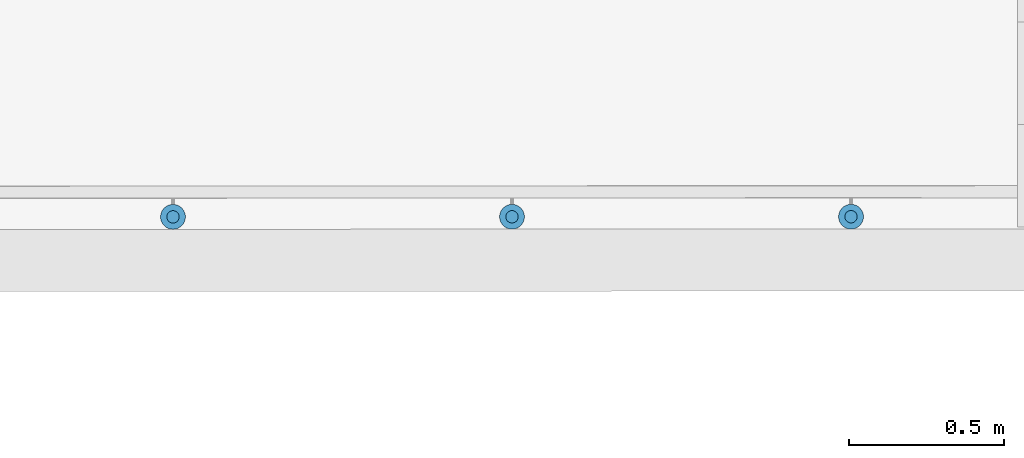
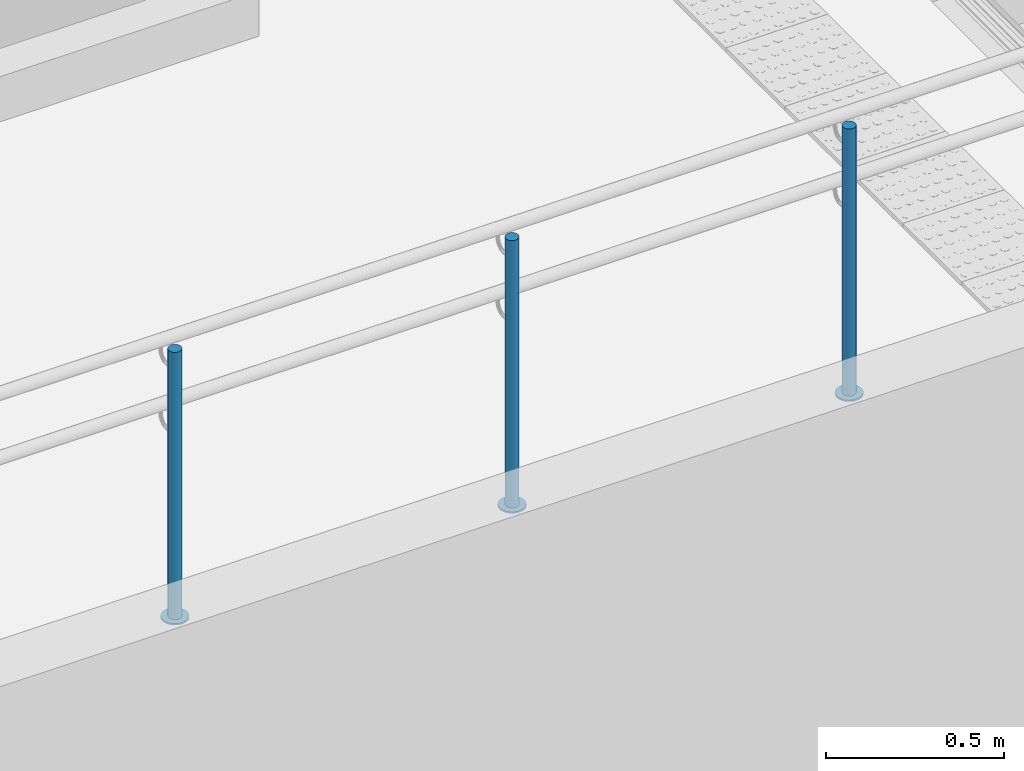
# One storey, part 130 of 237: 6 building element parts, 1 element without a shape of its own.
"""IFC2X3 building model written with IfcOpenShell, lengths in millimetres."""

from ifc_helpers import new_model, entity, si_unit, converted_unit, derived_unit, money_unit, direction, frame, origin_with_axes, place, context, subcontext, project, spatial, faceted_brep, material, type_object, element, aggregate, save


model = new_model("IFC2X3")

# Units and contexts
model_context = context("Model", 3, precision=0.01, world=origin_with_axes(), true_north=direction((0.0, 1.0)))
body_context = subcontext(model_context, "Body", "Model", "MODEL_VIEW")
ifc_project = project(units=[si_unit("LENGTHUNIT", "METRE", prefix="MILLI"), si_unit("AREAUNIT", "SQUARE_METRE"), si_unit("VOLUMEUNIT", "CUBIC_METRE"), converted_unit("PLANEANGLEUNIT", "DEGREE", entity("IfcPlaneAngleMeasure", 0.0174532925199), si_unit("PLANEANGLEUNIT", "RADIAN"), dimensions=[0, 0, 0, 0, 0, 0, 0]), money_unit("USD"), converted_unit("TIMEUNIT", "Year", entity("IfcTimeMeasure", 31556926.0), si_unit("TIMEUNIT", "SECOND"), dimensions=[0, 0, 1, 0, 0, 0, 0]), si_unit("MASSUNIT", "GRAM", prefix="KILO"), si_unit("THERMODYNAMICTEMPERATUREUNIT", "DEGREE_CELSIUS"), si_unit("LUMINOUSINTENSITYUNIT", "LUMEN"), si_unit("ENERGYUNIT", "JOULE", prefix="MEGA"), derived_unit("THERMALCONDUCTANCEUNIT", [(si_unit("POWERUNIT", "WATT"), 1), (si_unit("LENGTHUNIT", "METRE"), -1), (si_unit("THERMODYNAMICTEMPERATUREUNIT", "KELVIN"), -1)]), derived_unit("SPECIFICHEATCAPACITYUNIT", [(si_unit("ENERGYUNIT", "JOULE"), 1), (si_unit("MASSUNIT", "GRAM", prefix="KILO"), -1), (si_unit("THERMODYNAMICTEMPERATUREUNIT", "KELVIN"), -1)]), derived_unit("MASSDENSITYUNIT", [(si_unit("MASSUNIT", "GRAM", prefix="KILO"), 1), (si_unit("VOLUMEUNIT", "CUBIC_METRE"), -1)])], contexts=[model_context])

# Site, building, storey
site_placement = place(None, origin_with_axes())
site = spatial("IfcSite", under=ifc_project, at=site_placement, Name="Local", CompositionType="ELEMENT")
building_placement = place(site_placement, origin_with_axes())
building = spatial("IfcBuilding", under=site, at=building_placement, Name="Construção", CompositionType="ELEMENT")
storey_placement = place(building_placement, origin_with_axes())
storey = spatial("IfcBuildingStorey", under=building, at=storey_placement, Name="Pavimento Térreo", CompositionType="ELEMENT", Elevation=0.0)

# Railing, building element parts
railing_type = type_object("IfcRailingType", Name="Tipo de Guarda-Corpo", PredefinedType="NOTDEFINED")
railing_placement = place(storey_placement, frame((88000.0, 12000.0, -7124.22292764), z_axis=(0.0, 0.0, 1.0), x_axis=(1.0, 0.0, 0.0)))
railing = element("IfcRailing", 1, at=railing_placement, inside=storey, type_object=railing_type, Name="Guarda-Corpo - 003", PredefinedType="NOTDEFINED")
ifc_material_1 = material(Name="Aço - Inoxidável")
building_element_part_1_placement = place(railing_placement, origin_with_axes())
building_element_part_1 = element("IfcBuildingElementPart", 2, at=building_element_part_1_placement, material=ifc_material_1, Name="Aço - Inoxidável", context=body_context, shape_type="Brep", body=[
    faceted_brep([(8916.64733668, 1015.00471989, 2134.61538462), (8920.12037395, 1014.70171868, 2134.61538462), (8920.12037395, 1014.70171868, 3049.61538462), (8916.64733668, 1015.00471989, 3049.61538462), (8923.59326358, 1015.00640732, 2134.61538462), (8913.27967826, 1015.90620443, 2134.61538462), (8910.11972329, 1017.37878113, 2134.61538462), (8907.2634854, 1019.37770652, 2134.61538462), (8904.79774992, 1021.84224423, 2134.61538462), (8902.797437, 1024.69751056, 2134.61538462), (8901.32332511, 1027.85674967, 2134.61538462), (8900.42020441, 1031.22396968, 2134.61538462), (8900.11551576, 1034.69685931, 2134.61538462), (8900.41851698, 1038.16989658, 2134.61538462), (8901.32000151, 1041.537555, 2134.61538462), (8902.79257822, 1044.69750997, 2134.61538462), (8904.7915036, 1047.55374786, 2134.61538462), (8907.25604132, 1050.01948334, 2134.61538462), (8910.11130765, 1052.01979626, 2134.61538462), (8913.27054676, 1053.49390815, 2134.61538462), (8916.63776677, 1054.39702885, 2134.61538462), (8920.1106564, 1054.7017175, 2134.61538462), (8923.58369367, 1054.39871628, 2134.61538462), (8926.95135209, 1053.49723175, 2134.61538462), (8930.11130706, 1052.02465504, 2134.61538462), (8932.96754495, 1050.02572966, 2134.61538462), (8935.43328043, 1047.56119194, 2134.61538462), (8937.43359335, 1044.70592561, 2134.61538462), (8938.90770524, 1041.5466865, 2134.61538462), (8939.81082594, 1038.17946649, 2134.61538462), (8940.11551458, 1034.70657686, 2134.61538462), (8939.81251337, 1031.23353959, 2134.61538462), (8938.91102883, 1027.86588118, 2134.61538462), (8937.43845213, 1024.7059262, 2134.61538462), (8935.43952674, 1021.84968831, 2134.61538462), (8932.97498903, 1019.38395284, 2134.61538462), (8930.1197227, 1017.38363991, 2134.61538462), (8926.96048359, 1015.90952802, 2134.61538462), (8923.59326358, 1015.00640732, 3049.61538462), (8900.41851698, 1038.16989658, 3049.61538462), (8900.11551576, 1034.69685931, 3049.61538462), (8900.42020441, 1031.22396968, 3049.61538462), (8901.32332511, 1027.85674967, 3049.61538462), (8902.797437, 1024.69751056, 3049.61538462), (8904.79774992, 1021.84224423, 3049.61538462), (8907.2634854, 1019.37770652, 3049.61538462), (8910.11972329, 1017.37878113, 3049.61538462), (8913.27967826, 1015.90620443, 3049.61538462), (8926.96048359, 1015.90952802, 3049.61538462), (8930.1197227, 1017.38363991, 3049.61538462), (8932.97498903, 1019.38395284, 3049.61538462), (8935.43952674, 1021.84968831, 3049.61538462), (8937.43845213, 1024.7059262, 3049.61538462), (8938.91102883, 1027.86588118, 3049.61538462), (8939.81251337, 1031.23353959, 3049.61538462), (8940.11551458, 1034.70657686, 3049.61538462), (8939.81082594, 1038.17946649, 3049.61538462), (8938.90770524, 1041.5466865, 3049.61538462), (8937.43359335, 1044.70592561, 3049.61538462), (8935.43328043, 1047.56119194, 3049.61538462), (8932.96754495, 1050.02572966, 3049.61538462), (8930.11130706, 1052.02465504, 3049.61538462), (8926.95135209, 1053.49723175, 3049.61538462), (8923.58369367, 1054.39871628, 3049.61538462), (8920.1106564, 1054.7017175, 3049.61538462), (8916.63776677, 1054.39702885, 3049.61538462), (8913.27054676, 1053.49390815, 3049.61538462), (8910.11130765, 1052.01979626, 3049.61538462), (8907.25604132, 1050.01948334, 3049.61538462), (8904.7915036, 1047.55374786, 3049.61538462), (8902.79257822, 1044.69750997, 3049.61538462), (8901.32000151, 1041.537555, 3049.61538462)], [[[0, 1, 2, 3]], [[4, 1, 0, 5, 6, 7, 8, 9, 10, 11, 12, 13, 14, 15, 16, 17, 18, 19, 20, 21, 22, 23, 24, 25, 26, 27, 28, 29, 30, 31, 32, 33, 34, 35, 36, 37]], [[1, 4, 38, 2]], [[39, 40, 41, 42, 43, 44, 45, 46, 47, 3, 2, 38, 48, 49, 50, 51, 52, 53, 54, 55, 56, 57, 58, 59, 60, 61, 62, 63, 64, 65, 66, 67, 68, 69, 70, 71]], [[5, 0, 3, 47]], [[6, 5, 47, 46]], [[7, 6, 46, 45]], [[8, 7, 45, 44]], [[9, 8, 44, 43]], [[10, 9, 43, 42]], [[11, 10, 42, 41]], [[12, 11, 41, 40]], [[13, 12, 40, 39]], [[14, 13, 39, 71]], [[15, 14, 71, 70]], [[16, 15, 70, 69]], [[17, 16, 69, 68]], [[18, 17, 68, 67]], [[19, 18, 67, 66]], [[20, 19, 66, 65]], [[21, 20, 65, 64]], [[22, 21, 64, 63]], [[23, 22, 63, 62]], [[24, 23, 62, 61]], [[25, 24, 61, 60]], [[26, 25, 60, 59]], [[27, 26, 59, 58]], [[28, 27, 58, 57]], [[29, 28, 57, 56]], [[30, 29, 56, 55]], [[31, 30, 55, 54]], [[32, 31, 54, 53]], [[33, 32, 53, 52]], [[34, 33, 52, 51]], [[35, 34, 51, 50]], [[36, 35, 50, 49]], [[37, 36, 49, 48]], [[4, 37, 48, 38]]]),
])
ifc_material_2 = material(Name="Alumínio")
building_element_part_2_placement = place(railing_placement, origin_with_axes())
building_element_part_2 = element("IfcBuildingElementPart", 3, at=building_element_part_2_placement, material=ifc_material_2, Name="Alumínio", context=body_context, shape_type="Brep", body=[
    faceted_brep([(8960.11551399, 1034.71143563, 2129.61538462), (8959.5061367, 1041.6572149, 2129.61538462), (8959.5061367, 1041.6572149, 2134.61538462), (8960.11551399, 1034.71143563, 2134.61538462), (8959.50951157, 1027.7653611, 2129.61538462), (8957.70654249, 1021.03004426, 2129.61538462), (8954.76138908, 1014.71013432, 2129.61538462), (8950.76353831, 1008.99765853, 2129.61538462), (8945.83446288, 1004.06618758, 2129.61538462), (8940.12393023, 1000.06556173, 2129.61538462), (8933.80545201, 997.117337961, 2129.61538462), (8927.07101199, 995.311096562, 2129.61538462), (8920.12523272, 994.701719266, 2129.61538462), (8913.17915819, 995.307721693, 2129.61538462), (8906.44384135, 997.110690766, 2129.61538462), (8900.12393141, 1000.05584418, 2129.61538462), (8894.41145562, 1004.05369495, 2129.61538462), (8889.47998467, 1008.98277038, 2129.61538462), (8885.47935882, 1014.69330303, 2129.61538462), (8882.53113505, 1021.01178125, 2129.61538462), (8880.72489365, 1027.74622127, 2129.61538462), (8880.11551635, 1034.69200054, 2129.61538462), (8880.72151878, 1041.63807507, 2129.61538462), (8882.52448786, 1048.37339191, 2129.61538462), (8885.46964127, 1054.69330185, 2129.61538462), (8889.46749203, 1060.40577764, 2129.61538462), (8894.39656747, 1065.33724859, 2129.61538462), (8900.10710012, 1069.33787444, 2129.61538462), (8906.42557834, 1072.28609821, 2129.61538462), (8913.16001836, 1074.09233961, 2129.61538462), (8920.10579763, 1074.70171691, 2129.61538462), (8927.05187216, 1074.09571448, 2129.61538462), (8933.787189, 1072.29274541, 2129.61538462), (8940.10709894, 1069.34759199, 2129.61538462), (8945.81957473, 1065.34974123, 2129.61538462), (8950.75104568, 1060.42066579, 2129.61538462), (8954.75167153, 1054.71013314, 2129.61538462), (8957.6998953, 1048.39165492, 2129.61538462), (8957.6998953, 1048.39165492, 2134.61538462), (8954.75167153, 1054.71013314, 2134.61538462), (8950.75104568, 1060.42066579, 2134.61538462), (8945.81957473, 1065.34974123, 2134.61538462), (8940.10709894, 1069.34759199, 2134.61538462), (8933.787189, 1072.29274541, 2134.61538462), (8927.05187216, 1074.09571448, 2134.61538462), (8920.10579763, 1074.70171691, 2134.61538462), (8913.16001836, 1074.09233961, 2134.61538462), (8906.42557834, 1072.28609821, 2134.61538462), (8900.10710012, 1069.33787444, 2134.61538462), (8894.39656747, 1065.33724859, 2134.61538462), (8889.46749203, 1060.40577764, 2134.61538462), (8885.46964127, 1054.69330185, 2134.61538462), (8882.52448786, 1048.37339191, 2134.61538462), (8880.72151878, 1041.63807507, 2134.61538462), (8880.11551635, 1034.69200054, 2134.61538462), (8880.72489365, 1027.74622127, 2134.61538462), (8882.53113505, 1021.01178125, 2134.61538462), (8885.47935882, 1014.69330303, 2134.61538462), (8889.47998467, 1008.98277038, 2134.61538462), (8894.41145562, 1004.05369495, 2134.61538462), (8900.12393141, 1000.05584418, 2134.61538462), (8906.44384135, 997.110690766, 2134.61538462), (8913.17915819, 995.307721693, 2134.61538462), (8920.12523272, 994.701719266, 2134.61538462), (8927.07101199, 995.311096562, 2134.61538462), (8933.80545201, 997.117337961, 2134.61538462), (8940.12393023, 1000.06556173, 2134.61538462), (8945.83446288, 1004.06618758, 2134.61538462), (8950.76353831, 1008.99765853, 2134.61538462), (8954.76138908, 1014.71013432, 2134.61538462), (8957.70654249, 1021.03004426, 2134.61538462), (8959.50951157, 1027.7653611, 2134.61538462)], [[[0, 1, 2, 3]], [[0, 4, 5, 6, 7, 8, 9, 10, 11, 12, 13, 14, 15, 16, 17, 18, 19, 20, 21, 22, 23, 24, 25, 26, 27, 28, 29, 30, 31, 32, 33, 34, 35, 36, 37, 1]], [[1, 37, 38, 2]], [[3, 2, 38, 39, 40, 41, 42, 43, 44, 45, 46, 47, 48, 49, 50, 51, 52, 53, 54, 55, 56, 57, 58, 59, 60, 61, 62, 63, 64, 65, 66, 67, 68, 69, 70, 71]], [[4, 0, 3, 71]], [[5, 4, 71, 70]], [[6, 5, 70, 69]], [[7, 6, 69, 68]], [[8, 7, 68, 67]], [[9, 8, 67, 66]], [[10, 9, 66, 65]], [[11, 10, 65, 64]], [[12, 11, 64, 63]], [[13, 12, 63, 62]], [[14, 13, 62, 61]], [[15, 14, 61, 60]], [[16, 15, 60, 59]], [[17, 16, 59, 58]], [[18, 17, 58, 57]], [[19, 18, 57, 56]], [[20, 19, 56, 55]], [[21, 20, 55, 54]], [[22, 21, 54, 53]], [[23, 22, 53, 52]], [[24, 23, 52, 51]], [[25, 24, 51, 50]], [[26, 25, 50, 49]], [[27, 26, 49, 48]], [[28, 27, 48, 47]], [[29, 28, 47, 46]], [[30, 29, 46, 45]], [[31, 30, 45, 44]], [[32, 31, 44, 43]], [[33, 32, 43, 42]], [[34, 33, 42, 41]], [[35, 34, 41, 40]], [[36, 35, 40, 39]], [[37, 36, 39, 38]]]),
])
building_element_part_3_placement = place(railing_placement, origin_with_axes())
building_element_part_3 = element("IfcBuildingElementPart", 4, at=building_element_part_3_placement, material=ifc_material_1, Name="Aço - Inoxidável", context=body_context, shape_type="Brep", body=[
    faceted_brep([(10009.1386685, 1015.27012832, 2134.61538462), (10012.6117058, 1014.9671271, 2134.61538462), (10012.6117058, 1014.9671271, 3049.61538462), (10009.1386685, 1015.27012832, 3049.61538462), (10016.0845954, 1015.27181575, 2134.61538462), (10005.7710101, 1016.17161285, 2134.61538462), (10002.6110551, 1017.64418956, 2134.61538462), (9999.75481721, 1019.64311494, 2134.61538462), (9997.28908174, 1022.10765266, 2134.61538462), (9995.28876881, 1024.96291899, 2134.61538462), (9993.81465692, 1028.1221581, 2134.61538462), (9992.91153622, 1031.48937811, 2134.61538462), (9992.60684758, 1034.96226774, 2134.61538462), (9992.90984879, 1038.43530501, 2134.61538462), (9993.81133333, 1041.80296343, 2134.61538462), (9995.28391003, 1044.9629184, 2134.61538462), (9997.28283542, 1047.81915629, 2134.61538462), (9999.74737314, 1050.28489177, 2134.61538462), (10002.6026395, 1052.28520469, 2134.61538462), (10005.7618786, 1053.75931658, 2134.61538462), (10009.1290986, 1054.66243728, 2134.61538462), (10012.6019882, 1054.96712592, 2134.61538462), (10016.0750255, 1054.66412471, 2134.61538462), (10019.4426839, 1053.76264017, 2134.61538462), (10022.6026389, 1052.29006347, 2134.61538462), (10025.4588768, 1050.29113808, 2134.61538462), (10027.9246122, 1047.82660037, 2134.61538462), (10029.9249252, 1044.97133404, 2134.61538462), (10031.399037, 1041.81209493, 2134.61538462), (10032.3021577, 1038.44487492, 2134.61538462), (10032.6068464, 1034.97198529, 2134.61538462), (10032.3038452, 1031.49894802, 2134.61538462), (10031.4023606, 1028.1312896, 2134.61538462), (10029.9297839, 1024.97133463, 2134.61538462), (10027.9308586, 1022.11509674, 2134.61538462), (10025.4663208, 1019.64936126, 2134.61538462), (10022.6110545, 1017.64904834, 2134.61538462), (10019.4518154, 1016.17493645, 2134.61538462), (10016.0845954, 1015.27181575, 3049.61538462), (9992.90984879, 1038.43530501, 3049.61538462), (9992.60684758, 1034.96226774, 3049.61538462), (9992.91153622, 1031.48937811, 3049.61538462), (9993.81465692, 1028.1221581, 3049.61538462), (9995.28876881, 1024.96291899, 3049.61538462), (9997.28908174, 1022.10765266, 3049.61538462), (9999.75481721, 1019.64311494, 3049.61538462), (10002.6110551, 1017.64418956, 3049.61538462), (10005.7710101, 1016.17161285, 3049.61538462), (10019.4518154, 1016.17493645, 3049.61538462), (10022.6110545, 1017.64904834, 3049.61538462), (10025.4663208, 1019.64936126, 3049.61538462), (10027.9308586, 1022.11509674, 3049.61538462), (10029.9297839, 1024.97133463, 3049.61538462), (10031.4023606, 1028.1312896, 3049.61538462), (10032.3038452, 1031.49894802, 3049.61538462), (10032.6068464, 1034.97198529, 3049.61538462), (10032.3021577, 1038.44487492, 3049.61538462), (10031.399037, 1041.81209493, 3049.61538462), (10029.9249252, 1044.97133404, 3049.61538462), (10027.9246122, 1047.82660037, 3049.61538462), (10025.4588768, 1050.29113808, 3049.61538462), (10022.6026389, 1052.29006347, 3049.61538462), (10019.4426839, 1053.76264017, 3049.61538462), (10016.0750255, 1054.66412471, 3049.61538462), (10012.6019882, 1054.96712592, 3049.61538462), (10009.1290986, 1054.66243728, 3049.61538462), (10005.7618786, 1053.75931658, 3049.61538462), (10002.6026395, 1052.28520469, 3049.61538462), (9999.74737314, 1050.28489177, 3049.61538462), (9997.28283542, 1047.81915629, 3049.61538462), (9995.28391003, 1044.9629184, 3049.61538462), (9993.81133333, 1041.80296343, 3049.61538462)], [[[0, 1, 2, 3]], [[4, 1, 0, 5, 6, 7, 8, 9, 10, 11, 12, 13, 14, 15, 16, 17, 18, 19, 20, 21, 22, 23, 24, 25, 26, 27, 28, 29, 30, 31, 32, 33, 34, 35, 36, 37]], [[1, 4, 38, 2]], [[39, 40, 41, 42, 43, 44, 45, 46, 47, 3, 2, 38, 48, 49, 50, 51, 52, 53, 54, 55, 56, 57, 58, 59, 60, 61, 62, 63, 64, 65, 66, 67, 68, 69, 70, 71]], [[5, 0, 3, 47]], [[6, 5, 47, 46]], [[7, 6, 46, 45]], [[8, 7, 45, 44]], [[9, 8, 44, 43]], [[10, 9, 43, 42]], [[11, 10, 42, 41]], [[12, 11, 41, 40]], [[13, 12, 40, 39]], [[14, 13, 39, 71]], [[15, 14, 71, 70]], [[16, 15, 70, 69]], [[17, 16, 69, 68]], [[18, 17, 68, 67]], [[19, 18, 67, 66]], [[20, 19, 66, 65]], [[21, 20, 65, 64]], [[22, 21, 64, 63]], [[23, 22, 63, 62]], [[24, 23, 62, 61]], [[25, 24, 61, 60]], [[26, 25, 60, 59]], [[27, 26, 59, 58]], [[28, 27, 58, 57]], [[29, 28, 57, 56]], [[30, 29, 56, 55]], [[31, 30, 55, 54]], [[32, 31, 54, 53]], [[33, 32, 53, 52]], [[34, 33, 52, 51]], [[35, 34, 51, 50]], [[36, 35, 50, 49]], [[37, 36, 49, 48]], [[4, 37, 48, 38]]]),
])
building_element_part_4_placement = place(railing_placement, origin_with_axes())
building_element_part_4 = element("IfcBuildingElementPart", 5, at=building_element_part_4_placement, material=ifc_material_2, Name="Alumínio", context=body_context, shape_type="Brep", body=[
    faceted_brep([(10052.6068458, 1034.97684406, 2129.61538462), (10051.9974685, 1041.92262333, 2129.61538462), (10051.9974685, 1041.92262333, 2134.61538462), (10052.6068458, 1034.97684406, 2134.61538462), (10052.0008434, 1028.03076953, 2129.61538462), (10050.1978743, 1021.29545269, 2129.61538462), (10047.2527209, 1014.97554275, 2129.61538462), (10043.2548701, 1009.26306696, 2129.61538462), (10038.3257947, 1004.33159601, 2129.61538462), (10032.615262, 1000.33097016, 2129.61538462), (10026.2967838, 997.382746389, 2129.61538462), (10019.5623438, 995.576504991, 2129.61538462), (10012.6165645, 994.967127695, 2129.61538462), (10005.67049, 995.573130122, 2129.61538462), (9998.93517317, 997.376099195, 2129.61538462), (9992.61526322, 1000.32125261, 2129.61538462), (9986.90278743, 1004.31910337, 2129.61538462), (9981.97131649, 1009.24817881, 2129.61538462), (9977.97069063, 1014.95871146, 2129.61538462), (9975.02246686, 1021.27718968, 2129.61538462), (9973.21622546, 1028.0116297, 2129.61538462), (9972.60684817, 1034.95740897, 2129.61538462), (9973.21285059, 1041.9034835, 2129.61538462), (9975.01581967, 1048.63880034, 2129.61538462), (9977.96097308, 1054.95871028, 2129.61538462), (9981.95882385, 1060.67118607, 2129.61538462), (9986.88789928, 1065.60265702, 2129.61538462), (9992.59843193, 1069.60328287, 2129.61538462), (9998.91691015, 1072.55150664, 2129.61538462), (10005.6513502, 1074.35774804, 2129.61538462), (10012.5971294, 1074.96712533, 2129.61538462), (10019.543204, 1074.36112291, 2129.61538462), (10026.2785208, 1072.55815383, 2129.61538462), (10032.5984308, 1069.61300042, 2129.61538462), (10038.3109065, 1065.61514965, 2129.61538462), (10043.2423775, 1060.68607422, 2129.61538462), (10047.2430033, 1054.97554157, 2129.61538462), (10050.1912271, 1048.65706335, 2129.61538462), (10050.1912271, 1048.65706335, 2134.61538462), (10047.2430033, 1054.97554157, 2134.61538462), (10043.2423775, 1060.68607422, 2134.61538462), (10038.3109065, 1065.61514965, 2134.61538462), (10032.5984308, 1069.61300042, 2134.61538462), (10026.2785208, 1072.55815383, 2134.61538462), (10019.543204, 1074.36112291, 2134.61538462), (10012.5971294, 1074.96712533, 2134.61538462), (10005.6513502, 1074.35774804, 2134.61538462), (9998.91691015, 1072.55150664, 2134.61538462), (9992.59843193, 1069.60328287, 2134.61538462), (9986.88789928, 1065.60265702, 2134.61538462), (9981.95882385, 1060.67118607, 2134.61538462), (9977.96097308, 1054.95871028, 2134.61538462), (9975.01581967, 1048.63880034, 2134.61538462), (9973.21285059, 1041.9034835, 2134.61538462), (9972.60684817, 1034.95740897, 2134.61538462), (9973.21622546, 1028.0116297, 2134.61538462), (9975.02246686, 1021.27718968, 2134.61538462), (9977.97069063, 1014.95871146, 2134.61538462), (9981.97131649, 1009.24817881, 2134.61538462), (9986.90278743, 1004.31910337, 2134.61538462), (9992.61526322, 1000.32125261, 2134.61538462), (9998.93517317, 997.376099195, 2134.61538462), (10005.67049, 995.573130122, 2134.61538462), (10012.6165645, 994.967127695, 2134.61538462), (10019.5623438, 995.576504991, 2134.61538462), (10026.2967838, 997.382746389, 2134.61538462), (10032.615262, 1000.33097016, 2134.61538462), (10038.3257947, 1004.33159601, 2134.61538462), (10043.2548701, 1009.26306696, 2134.61538462), (10047.2527209, 1014.97554275, 2134.61538462), (10050.1978743, 1021.29545269, 2134.61538462), (10052.0008434, 1028.03076953, 2134.61538462)], [[[0, 1, 2, 3]], [[0, 4, 5, 6, 7, 8, 9, 10, 11, 12, 13, 14, 15, 16, 17, 18, 19, 20, 21, 22, 23, 24, 25, 26, 27, 28, 29, 30, 31, 32, 33, 34, 35, 36, 37, 1]], [[1, 37, 38, 2]], [[3, 2, 38, 39, 40, 41, 42, 43, 44, 45, 46, 47, 48, 49, 50, 51, 52, 53, 54, 55, 56, 57, 58, 59, 60, 61, 62, 63, 64, 65, 66, 67, 68, 69, 70, 71]], [[4, 0, 3, 71]], [[5, 4, 71, 70]], [[6, 5, 70, 69]], [[7, 6, 69, 68]], [[8, 7, 68, 67]], [[9, 8, 67, 66]], [[10, 9, 66, 65]], [[11, 10, 65, 64]], [[12, 11, 64, 63]], [[13, 12, 63, 62]], [[14, 13, 62, 61]], [[15, 14, 61, 60]], [[16, 15, 60, 59]], [[17, 16, 59, 58]], [[18, 17, 58, 57]], [[19, 18, 57, 56]], [[20, 19, 56, 55]], [[21, 20, 55, 54]], [[22, 21, 54, 53]], [[23, 22, 53, 52]], [[24, 23, 52, 51]], [[25, 24, 51, 50]], [[26, 25, 50, 49]], [[27, 26, 49, 48]], [[28, 27, 48, 47]], [[29, 28, 47, 46]], [[30, 29, 46, 45]], [[31, 30, 45, 44]], [[32, 31, 44, 43]], [[33, 32, 43, 42]], [[34, 33, 42, 41]], [[35, 34, 41, 40]], [[36, 35, 40, 39]], [[37, 36, 39, 38]]]),
])
building_element_part_5_placement = place(railing_placement, origin_with_axes())
building_element_part_5 = element("IfcBuildingElementPart", 6, at=building_element_part_5_placement, material=ifc_material_1, Name="Aço - Inoxidável", context=body_context, shape_type="Brep", body=[
    faceted_brep([(11101.6300003, 1015.53553675, 2134.61538462), (11105.1030376, 1015.23253553, 2134.61538462), (11105.1030376, 1015.23253553, 3049.61538462), (11101.6300003, 1015.53553675, 3049.61538462), (11108.5759272, 1015.53722418, 2134.61538462), (11098.2623419, 1016.43702128, 2134.61538462), (11095.1023869, 1017.90959799, 2134.61538462), (11092.246149, 1019.90852337, 2134.61538462), (11089.7804135, 1022.37306109, 2134.61538462), (11087.7801006, 1025.22832742, 2134.61538462), (11086.3059887, 1028.38756652, 2134.61538462), (11085.402868, 1031.75478653, 2134.61538462), (11085.0981794, 1035.22767617, 2134.61538462), (11085.4011806, 1038.70071344, 2134.61538462), (11086.3026651, 1042.06837185, 2134.61538462), (11087.7752418, 1045.22832683, 2134.61538462), (11089.7741672, 1048.08456472, 2134.61538462), (11092.2387049, 1050.55030019, 2134.61538462), (11095.0939713, 1052.55061312, 2134.61538462), (11098.2532104, 1054.02472501, 2134.61538462), (11101.6204304, 1054.9278457, 2134.61538462), (11105.09332, 1055.23253435, 2134.61538462), (11108.5663573, 1054.92953314, 2134.61538462), (11111.9340157, 1054.0280486, 2134.61538462), (11115.0939707, 1052.55547189, 2134.61538462), (11117.9502086, 1050.55654651, 2134.61538462), (11120.415944, 1048.09200879, 2134.61538462), (11122.416257, 1045.23674247, 2134.61538462), (11123.8903689, 1042.07750336, 2134.61538462), (11124.7934896, 1038.71028335, 2134.61538462), (11125.0981782, 1035.23739372, 2134.61538462), (11124.795177, 1031.76435645, 2134.61538462), (11123.8936925, 1028.39669803, 2134.61538462), (11122.4211157, 1025.23674306, 2134.61538462), (11120.4221904, 1022.38050517, 2134.61538462), (11117.9576526, 1019.91476969, 2134.61538462), (11115.1023863, 1017.91445677, 2134.61538462), (11111.9431472, 1016.44034488, 2134.61538462), (11108.5759272, 1015.53722418, 3049.61538462), (11085.4011806, 1038.70071344, 3049.61538462), (11085.0981794, 1035.22767617, 3049.61538462), (11085.402868, 1031.75478653, 3049.61538462), (11086.3059887, 1028.38756652, 3049.61538462), (11087.7801006, 1025.22832742, 3049.61538462), (11089.7804135, 1022.37306109, 3049.61538462), (11092.246149, 1019.90852337, 3049.61538462), (11095.1023869, 1017.90959799, 3049.61538462), (11098.2623419, 1016.43702128, 3049.61538462), (11111.9431472, 1016.44034488, 3049.61538462), (11115.1023863, 1017.91445677, 3049.61538462), (11117.9576526, 1019.91476969, 3049.61538462), (11120.4221904, 1022.38050517, 3049.61538462), (11122.4211157, 1025.23674306, 3049.61538462), (11123.8936925, 1028.39669803, 3049.61538462), (11124.795177, 1031.76435645, 3049.61538462), (11125.0981782, 1035.23739372, 3049.61538462), (11124.7934896, 1038.71028335, 3049.61538462), (11123.8903689, 1042.07750336, 3049.61538462), (11122.416257, 1045.23674247, 3049.61538462), (11120.415944, 1048.09200879, 3049.61538462), (11117.9502086, 1050.55654651, 3049.61538462), (11115.0939707, 1052.55547189, 3049.61538462), (11111.9340157, 1054.0280486, 3049.61538462), (11108.5663573, 1054.92953314, 3049.61538462), (11105.09332, 1055.23253435, 3049.61538462), (11101.6204304, 1054.9278457, 3049.61538462), (11098.2532104, 1054.02472501, 3049.61538462), (11095.0939713, 1052.55061312, 3049.61538462), (11092.2387049, 1050.55030019, 3049.61538462), (11089.7741672, 1048.08456472, 3049.61538462), (11087.7752418, 1045.22832683, 3049.61538462), (11086.3026651, 1042.06837185, 3049.61538462)], [[[0, 1, 2, 3]], [[4, 1, 0, 5, 6, 7, 8, 9, 10, 11, 12, 13, 14, 15, 16, 17, 18, 19, 20, 21, 22, 23, 24, 25, 26, 27, 28, 29, 30, 31, 32, 33, 34, 35, 36, 37]], [[1, 4, 38, 2]], [[39, 40, 41, 42, 43, 44, 45, 46, 47, 3, 2, 38, 48, 49, 50, 51, 52, 53, 54, 55, 56, 57, 58, 59, 60, 61, 62, 63, 64, 65, 66, 67, 68, 69, 70, 71]], [[5, 0, 3, 47]], [[6, 5, 47, 46]], [[7, 6, 46, 45]], [[8, 7, 45, 44]], [[9, 8, 44, 43]], [[10, 9, 43, 42]], [[11, 10, 42, 41]], [[12, 11, 41, 40]], [[13, 12, 40, 39]], [[14, 13, 39, 71]], [[15, 14, 71, 70]], [[16, 15, 70, 69]], [[17, 16, 69, 68]], [[18, 17, 68, 67]], [[19, 18, 67, 66]], [[20, 19, 66, 65]], [[21, 20, 65, 64]], [[22, 21, 64, 63]], [[23, 22, 63, 62]], [[24, 23, 62, 61]], [[25, 24, 61, 60]], [[26, 25, 60, 59]], [[27, 26, 59, 58]], [[28, 27, 58, 57]], [[29, 28, 57, 56]], [[30, 29, 56, 55]], [[31, 30, 55, 54]], [[32, 31, 54, 53]], [[33, 32, 53, 52]], [[34, 33, 52, 51]], [[35, 34, 51, 50]], [[36, 35, 50, 49]], [[37, 36, 49, 48]], [[4, 37, 48, 38]]]),
])
building_element_part_6_placement = place(railing_placement, origin_with_axes())
building_element_part_6 = element("IfcBuildingElementPart", 7, at=building_element_part_6_placement, material=ifc_material_2, Name="Alumínio", context=body_context, shape_type="Brep", body=[
    faceted_brep([(11145.0981776, 1035.24225249, 2129.61538462), (11144.4888003, 1042.18803176, 2129.61538462), (11144.4888003, 1042.18803176, 2134.61538462), (11145.0981776, 1035.24225249, 2134.61538462), (11144.4921752, 1028.29617796, 2129.61538462), (11142.6892061, 1021.56086112, 2129.61538462), (11139.7440527, 1015.24095118, 2129.61538462), (11135.7462019, 1009.52847539, 2129.61538462), (11130.8171265, 1004.59700444, 2129.61538462), (11125.1065939, 1000.59637859, 2129.61538462), (11118.7881156, 997.648154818, 2129.61538462), (11112.0536756, 995.84191342, 2129.61538462), (11105.1078963, 995.232536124, 2129.61538462), (11098.1618218, 995.838538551, 2129.61538462), (11091.426505, 997.641507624, 2129.61538462), (11085.106595, 1000.58666104, 2129.61538462), (11079.3941192, 1004.5845118, 2129.61538462), (11074.4626483, 1009.51358724, 2129.61538462), (11070.4620224, 1015.22411989, 2129.61538462), (11067.5137987, 1021.54259811, 2129.61538462), (11065.7075573, 1028.27703812, 2129.61538462), (11065.09818, 1035.2228174, 2129.61538462), (11065.7041824, 1042.16889193, 2129.61538462), (11067.5071515, 1048.90420876, 2129.61538462), (11070.4523049, 1055.22411871, 2129.61538462), (11074.4501557, 1060.9365945, 2129.61538462), (11079.3792311, 1065.86806544, 2129.61538462), (11085.0897637, 1069.8686913, 2129.61538462), (11091.408242, 1072.81691507, 2129.61538462), (11098.142682, 1074.62315647, 2129.61538462), (11105.0884613, 1075.23253376, 2129.61538462), (11112.0345358, 1074.62653134, 2129.61538462), (11118.7698526, 1072.82356226, 2129.61538462), (11125.0897626, 1069.87840885, 2129.61538462), (11130.8022384, 1065.88055808, 2129.61538462), (11135.7337093, 1060.95148265, 2129.61538462), (11139.7343352, 1055.24095, 2129.61538462), (11142.6825589, 1048.92247178, 2129.61538462), (11142.6825589, 1048.92247178, 2134.61538462), (11139.7343352, 1055.24095, 2134.61538462), (11135.7337093, 1060.95148265, 2134.61538462), (11130.8022384, 1065.88055808, 2134.61538462), (11125.0897626, 1069.87840885, 2134.61538462), (11118.7698526, 1072.82356226, 2134.61538462), (11112.0345358, 1074.62653134, 2134.61538462), (11105.0884613, 1075.23253376, 2134.61538462), (11098.142682, 1074.62315647, 2134.61538462), (11091.408242, 1072.81691507, 2134.61538462), (11085.0897637, 1069.8686913, 2134.61538462), (11079.3792311, 1065.86806544, 2134.61538462), (11074.4501557, 1060.9365945, 2134.61538462), (11070.4523049, 1055.22411871, 2134.61538462), (11067.5071515, 1048.90420876, 2134.61538462), (11065.7041824, 1042.16889193, 2134.61538462), (11065.09818, 1035.2228174, 2134.61538462), (11065.7075573, 1028.27703812, 2134.61538462), (11067.5137987, 1021.54259811, 2134.61538462), (11070.4620224, 1015.22411989, 2134.61538462), (11074.4626483, 1009.51358724, 2134.61538462), (11079.3941192, 1004.5845118, 2134.61538462), (11085.106595, 1000.58666104, 2134.61538462), (11091.426505, 997.641507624, 2134.61538462), (11098.1618218, 995.838538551, 2134.61538462), (11105.1078963, 995.232536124, 2134.61538462), (11112.0536756, 995.84191342, 2134.61538462), (11118.7881156, 997.648154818, 2134.61538462), (11125.1065939, 1000.59637859, 2134.61538462), (11130.8171265, 1004.59700444, 2134.61538462), (11135.7462019, 1009.52847539, 2134.61538462), (11139.7440527, 1015.24095118, 2134.61538462), (11142.6892061, 1021.56086112, 2134.61538462), (11144.4921752, 1028.29617796, 2134.61538462)], [[[0, 1, 2, 3]], [[0, 4, 5, 6, 7, 8, 9, 10, 11, 12, 13, 14, 15, 16, 17, 18, 19, 20, 21, 22, 23, 24, 25, 26, 27, 28, 29, 30, 31, 32, 33, 34, 35, 36, 37, 1]], [[1, 37, 38, 2]], [[3, 2, 38, 39, 40, 41, 42, 43, 44, 45, 46, 47, 48, 49, 50, 51, 52, 53, 54, 55, 56, 57, 58, 59, 60, 61, 62, 63, 64, 65, 66, 67, 68, 69, 70, 71]], [[4, 0, 3, 71]], [[5, 4, 71, 70]], [[6, 5, 70, 69]], [[7, 6, 69, 68]], [[8, 7, 68, 67]], [[9, 8, 67, 66]], [[10, 9, 66, 65]], [[11, 10, 65, 64]], [[12, 11, 64, 63]], [[13, 12, 63, 62]], [[14, 13, 62, 61]], [[15, 14, 61, 60]], [[16, 15, 60, 59]], [[17, 16, 59, 58]], [[18, 17, 58, 57]], [[19, 18, 57, 56]], [[20, 19, 56, 55]], [[21, 20, 55, 54]], [[22, 21, 54, 53]], [[23, 22, 53, 52]], [[24, 23, 52, 51]], [[25, 24, 51, 50]], [[26, 25, 50, 49]], [[27, 26, 49, 48]], [[28, 27, 48, 47]], [[29, 28, 47, 46]], [[30, 29, 46, 45]], [[31, 30, 45, 44]], [[32, 31, 44, 43]], [[33, 32, 43, 42]], [[34, 33, 42, 41]], [[35, 34, 41, 40]], [[36, 35, 40, 39]], [[37, 36, 39, 38]]]),
])
aggregate(railing, [building_element_part_1, building_element_part_2, building_element_part_3, building_element_part_4, building_element_part_5, building_element_part_6])

save(model, "model.ifc")
